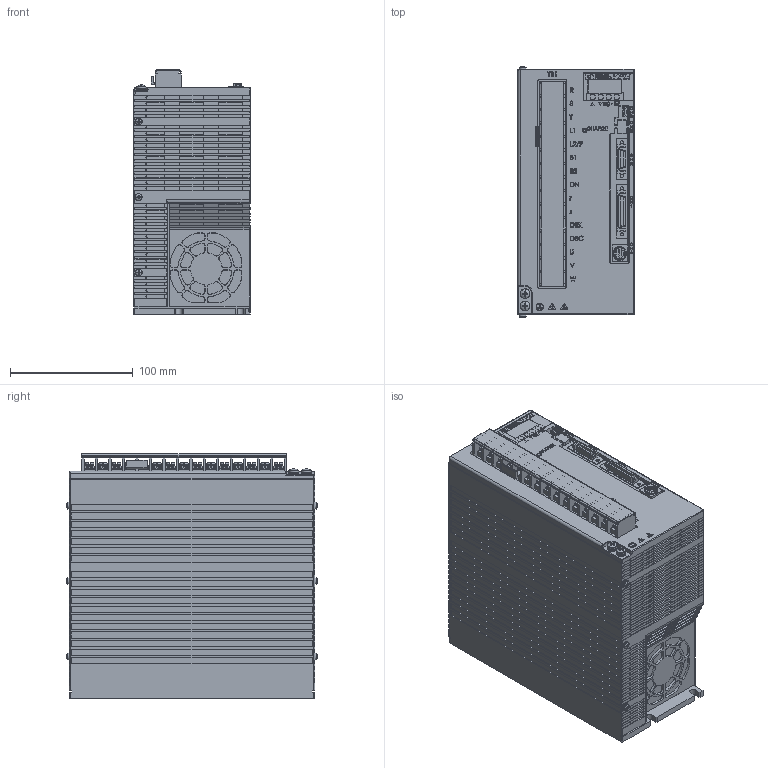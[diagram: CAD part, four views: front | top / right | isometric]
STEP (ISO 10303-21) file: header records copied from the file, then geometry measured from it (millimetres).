
FILE_DESCRIPTION (( 'STEP AP214' ), '1' );
FILE_NAME ('NCR-HA_Serise(152-222)#SE-75210A.STEP', '2020-03-13T06:51:36', ( '' ), ( '' ), 'SwSTEP 2.0', 'SolidWorks 2018', '' );
FILE_SCHEMA (( 'AUTOMOTIVE_DESIGN' ));
Length unit declared in the file: millimetre
Products named in the file (1): NCR-HA_Serise(152-222)#SE-75210A
Bounding box: 95 x 204.71 x 199.2 mm (x, y, z)
Volume: 3382867.5 mm3; surface area: 204916.8 mm2
Topology: 2 solids, 10 shells, 6643 faces, 19318 edges, 12688 vertices
Faces by surface type: plane 4218, cylinder 1452, bspline 624, cone 268, torus 58, sphere 23
Entity records: 271936 total; most frequent: CARTESIAN_POINT 79868, ORIENTED_EDGE 38598, DIRECTION 29535, EDGE_CURVE 19299, VECTOR 13001, LINE 13001, VERTEX_POINT 12688, AXIS2_PLACEMENT_3D 8267
